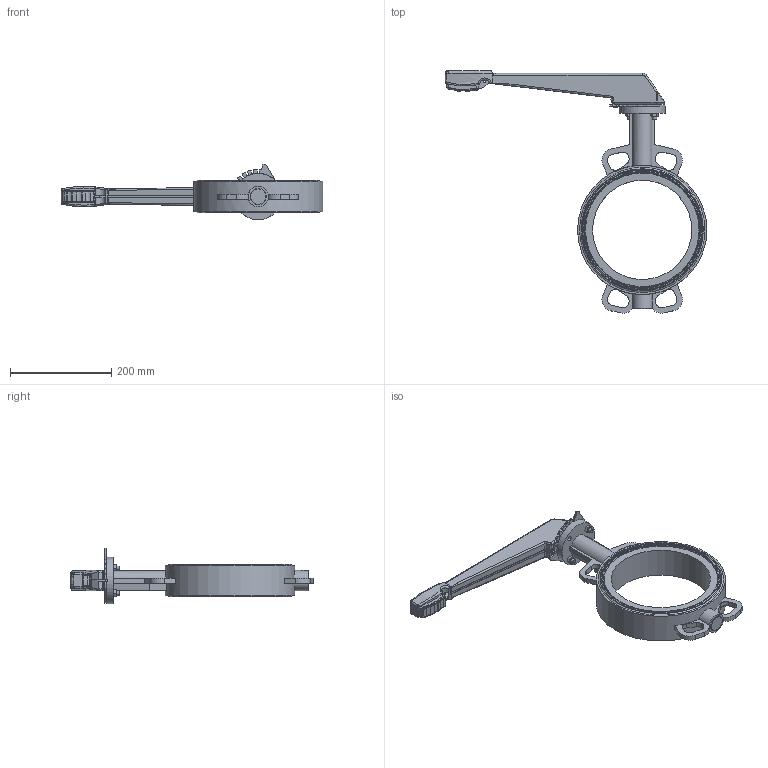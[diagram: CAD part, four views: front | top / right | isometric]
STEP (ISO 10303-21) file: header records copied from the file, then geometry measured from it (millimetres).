
FILE_DESCRIPTION((''),'2;1');
FILE_NAME('K:\Inventor\1 Artikel\10) Absperrklappen\10a) manuell\Witzel\830-GGG, Euronomic BA\830-GGG, DN200\830-GGG, DN200, 3D\830-GGG, DN200, PN6-16, HH, 3D.stp','2019-08-14T10:12:34',('claudia'),(''),'Autodesk Inventor 2013','Autodesk Inventor 2013','');
FILE_SCHEMA(('AUTOMOTIVE_DESIGN { 1 0 10303 214 1 1 1 1 }'));
Length unit declared in the file: millimetre
Products named in the file (1): Bauteil7
Bounding box: 518.25 x 479.94 x 110 mm (x, y, z)
Volume: 2226730.4 mm3; surface area: 254685 mm2
Topology: 1 solids, 3 shells, 1274 faces, 3433 edges, 2243 vertices
Faces by surface type: plane 542, bspline 467, cylinder 165, cone 48, torus 38, sphere 14
Full cylindrical faces by diameter (mm): 5 x1, 7.233 x2, 8 x4, 9 x4, 12 x2, 15.8 x2, 25 x1, 32 x1, 42 x1, 92 x1, 196.5 x1, 248 x2, 256 x1
Entity records: 47905 total; most frequent: CARTESIAN_POINT 18963, ORIENTED_EDGE 6694, DIRECTION 4448, EDGE_CURVE 3347, VERTEX_POINT 2223, VECTOR 1780, LINE 1780, EDGE_LOOP 1434
